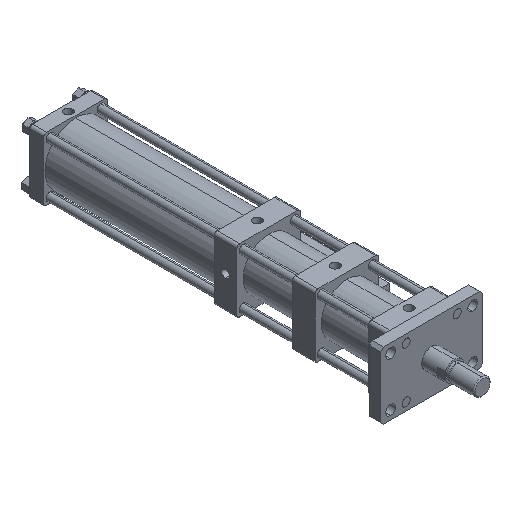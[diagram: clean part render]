
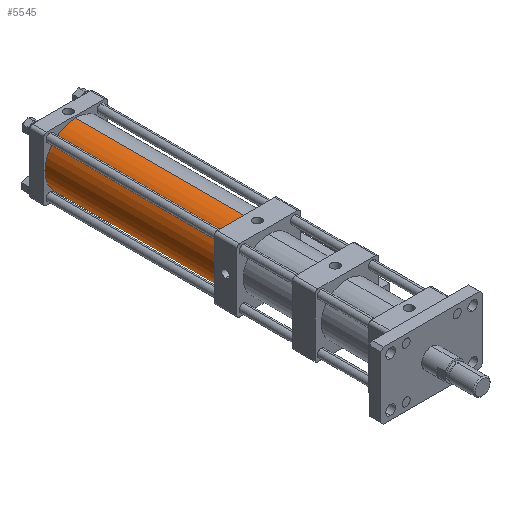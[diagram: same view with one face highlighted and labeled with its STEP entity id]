
A CAD part, isometric view. The second image highlights one B-rep face of the part: STEP entity #5545.
In plain terms, the highlighted cylindrical face has radius 54 mm (diameter 108 mm), a partial arc.
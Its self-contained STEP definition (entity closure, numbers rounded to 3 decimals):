
#150 = CIRCLE ( 'NONE', #3594, 54. ) ;
#400 = FACE_OUTER_BOUND ( 'NONE', #6586, .T. ) ;
#597 = AXIS2_PLACEMENT_3D ( 'NONE', #3492, #6521, #1609 ) ;
#646 = CARTESIAN_POINT ( 'NONE',  ( 0., 629.002, 52.362 ) ) ;
#749 = EDGE_CURVE ( 'NONE', #2235, #2109, #5249, .T. ) ;
#817 = VERTEX_POINT ( 'NONE', #646 ) ;
#1460 = CARTESIAN_POINT ( 'NONE',  ( 0., 629.002, 52.362 ) ) ;
#1609 = DIRECTION ( 'NONE',  ( 0., 0., -1. ) ) ;
#1840 = CARTESIAN_POINT ( 'NONE',  ( 0., 629.002, -55.638 ) ) ;
#1843 = EDGE_CURVE ( 'NONE', #2328, #817, #150, .T. ) ;
#2003 = ORIENTED_EDGE ( 'NONE', *, *, #749, .T. ) ;
#2067 = DIRECTION ( 'NONE',  ( 0., -1., 0. ) ) ;
#2109 = VERTEX_POINT ( 'NONE', #3224 ) ;
#2235 = VERTEX_POINT ( 'NONE', #7019 ) ;
#2328 = VERTEX_POINT ( 'NONE', #7721 ) ;
#2794 = CARTESIAN_POINT ( 'NONE',  ( 0., 328.002, -1.638 ) ) ;
#3036 = DIRECTION ( 'NONE',  ( 0., 1., 0. ) ) ;
#3224 = CARTESIAN_POINT ( 'NONE',  ( 0., 328.002, 52.362 ) ) ;
#3273 = CYLINDRICAL_SURFACE ( 'NONE', #597, 54. ) ;
#3296 = EDGE_CURVE ( 'NONE', #817, #2109, #6414, .T. ) ;
#3449 = DIRECTION ( 'NONE',  ( 0., 1., 0. ) ) ;
#3452 = VECTOR ( 'NONE', #7408, 1000. ) ;
#3492 = CARTESIAN_POINT ( 'NONE',  ( 0., 629.002, -1.638 ) ) ;
#3594 = AXIS2_PLACEMENT_3D ( 'NONE', #6712, #3036, #7339 ) ;
#3633 = LINE ( 'NONE', #1840, #3452 ) ;
#3662 = AXIS2_PLACEMENT_3D ( 'NONE', #2794, #3449, #7094 ) ;
#3820 = ORIENTED_EDGE ( 'NONE', *, *, #3296, .F. ) ;
#4227 = EDGE_CURVE ( 'NONE', #2328, #2235, #3633, .T. ) ;
#5186 = ORIENTED_EDGE ( 'NONE', *, *, #1843, .F. ) ;
#5249 = CIRCLE ( 'NONE', #3662, 54. ) ;
#5545 = ADVANCED_FACE ( 'NONE', ( #400 ), #3273, .T. ) ;
#6221 = VECTOR ( 'NONE', #2067, 1000. ) ;
#6414 = LINE ( 'NONE', #1460, #6221 ) ;
#6521 = DIRECTION ( 'NONE',  ( 0., -1., 0. ) ) ;
#6586 = EDGE_LOOP ( 'NONE', ( #3820, #5186, #6888, #2003 ) ) ;
#6712 = CARTESIAN_POINT ( 'NONE',  ( 0., 629.002, -1.638 ) ) ;
#6888 = ORIENTED_EDGE ( 'NONE', *, *, #4227, .T. ) ;
#7019 = CARTESIAN_POINT ( 'NONE',  ( 0., 328.002, -55.638 ) ) ;
#7094 = DIRECTION ( 'NONE',  ( 0., 0., 1. ) ) ;
#7339 = DIRECTION ( 'NONE',  ( 0., 0., 1. ) ) ;
#7408 = DIRECTION ( 'NONE',  ( 0., -1., 0. ) ) ;
#7721 = CARTESIAN_POINT ( 'NONE',  ( 0., 629.002, -55.638 ) ) ;
